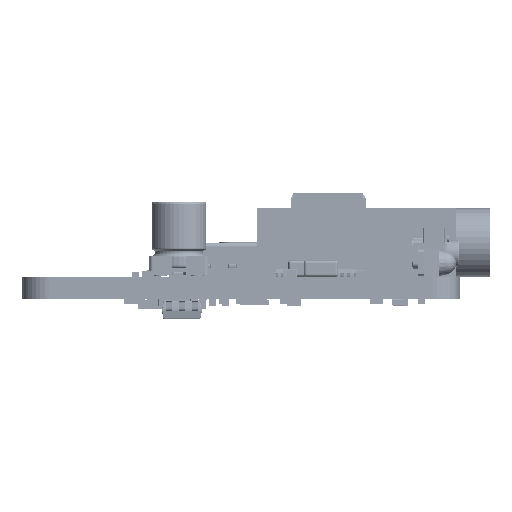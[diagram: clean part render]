
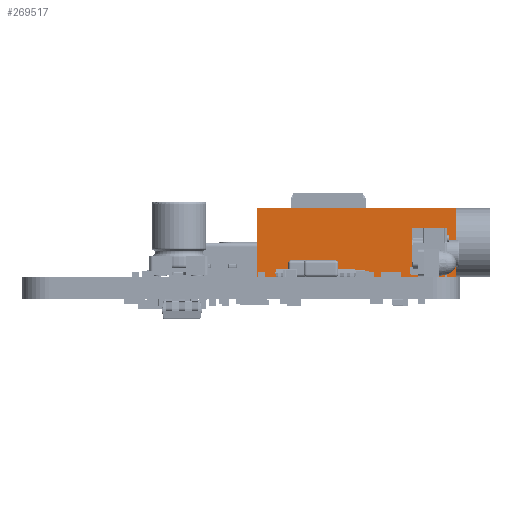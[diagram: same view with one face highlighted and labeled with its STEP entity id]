
A CAD part, left-side view. The second image highlights one B-rep face of the part: STEP entity #269517.
In plain terms, the highlighted planar face has unit normal (-1, 0, 0).
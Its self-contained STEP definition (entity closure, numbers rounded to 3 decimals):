
#269517 = ADVANCED_FACE('',(#269518),#269552,.T.);
#269518 = FACE_BOUND('',#269519,.T.);
#269519 = EDGE_LOOP('',(#269520,#269530,#269538,#269546));
#269520 = ORIENTED_EDGE('',*,*,#269521,.T.);
#269521 = EDGE_CURVE('',#269522,#269524,#269526,.T.);
#269522 = VERTEX_POINT('',#269523);
#269523 = CARTESIAN_POINT('',(-3.,-7.25,0.));
#269524 = VERTEX_POINT('',#269525);
#269525 = CARTESIAN_POINT('',(-3.,-7.25,5.));
#269526 = LINE('',#269527,#269528);
#269527 = CARTESIAN_POINT('',(-3.,-7.25,0.));
#269528 = VECTOR('',#269529,1.);
#269529 = DIRECTION('',(0.,0.,1.));
#269530 = ORIENTED_EDGE('',*,*,#269531,.T.);
#269531 = EDGE_CURVE('',#269524,#269532,#269534,.T.);
#269532 = VERTEX_POINT('',#269533);
#269533 = CARTESIAN_POINT('',(-3.,7.25,5.));
#269534 = LINE('',#269535,#269536);
#269535 = CARTESIAN_POINT('',(-3.,-7.25,5.));
#269536 = VECTOR('',#269537,1.);
#269537 = DIRECTION('',(0.,1.,0.));
#269538 = ORIENTED_EDGE('',*,*,#269539,.F.);
#269539 = EDGE_CURVE('',#269540,#269532,#269542,.T.);
#269540 = VERTEX_POINT('',#269541);
#269541 = CARTESIAN_POINT('',(-3.,7.25,0.));
#269542 = LINE('',#269543,#269544);
#269543 = CARTESIAN_POINT('',(-3.,7.25,0.));
#269544 = VECTOR('',#269545,1.);
#269545 = DIRECTION('',(0.,0.,1.));
#269546 = ORIENTED_EDGE('',*,*,#269547,.F.);
#269547 = EDGE_CURVE('',#269522,#269540,#269548,.T.);
#269548 = LINE('',#269549,#269550);
#269549 = CARTESIAN_POINT('',(-3.,-7.25,0.));
#269550 = VECTOR('',#269551,1.);
#269551 = DIRECTION('',(0.,1.,0.));
#269552 = PLANE('',#269553);
#269553 = AXIS2_PLACEMENT_3D('',#269554,#269555,#269556);
#269554 = CARTESIAN_POINT('',(-3.,-7.25,0.));
#269555 = DIRECTION('',(-1.,0.,0.));
#269556 = DIRECTION('',(0.,1.,0.));
